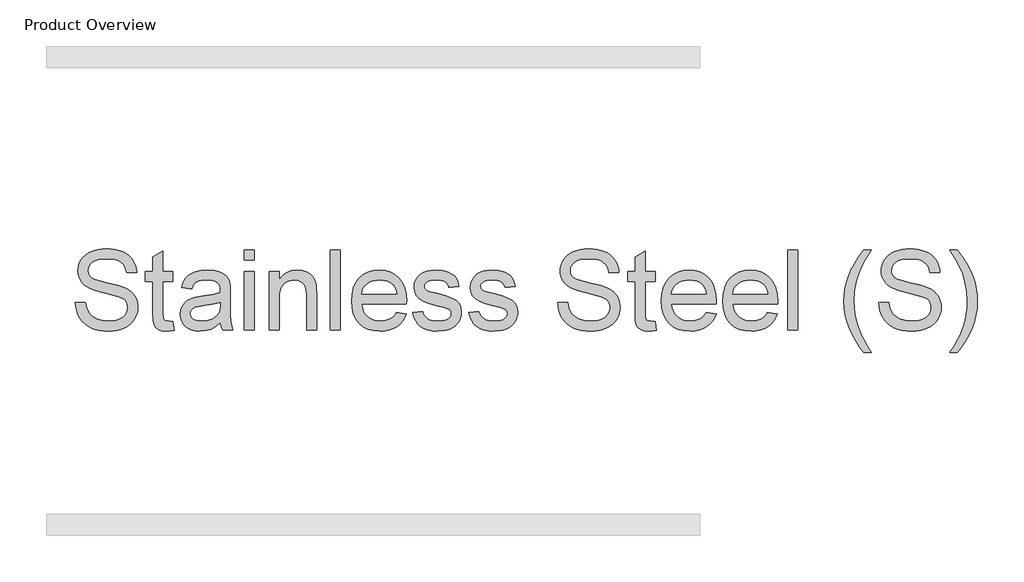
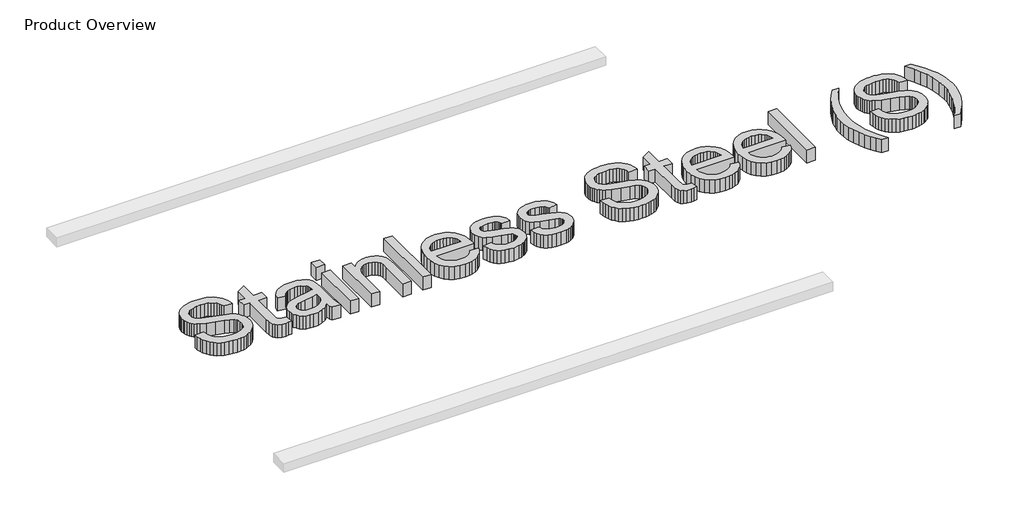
# One storey, part 3 of 12: 1 proxy.
"""IFC4 building model written with IfcOpenShell, lengths in millimetres."""

import ifcopenshell
import ifcopenshell.guid

model = None  # the IFC model being written
_history = None  # IfcOwnerHistory: only IFC2X3 demands one
_inside = {}  # id of a spatial element -> (the spatial element, [elements in it])
_under = {}  # id of a project, library or spatial element -> (it, [spatial elements below it])
_declared = {}  # id of a project -> (the project, [libraries it declares])
_typed = {}  # id of a type object -> (the type object, [elements of that type])
_made_of = {}  # id of a material, layer set ... -> (it, [elements and type objects made of it])


def new_model(schema):
    """Start an empty IFC model of exactly this schema.

    Asked for "IFC4X3", IfcOpenShell would pick the latest addendum, in which some entities
    have other attributes; the version numbers below select the first issue.
    IFC2X3 requires an IfcOwnerHistory on every rooted entity: one is made here for all.
    """
    global model, _history
    if schema == "IFC4X3":
        model = ifcopenshell.file(schema_version=(4, 3, 0, 0))
    else:
        model = ifcopenshell.file(schema=schema)
    _inside.clear()
    _under.clear()
    _declared.clear()
    _typed.clear()
    _made_of.clear()
    _history = None
    if model.schema == "IFC2X3":
        org = make("IfcOrganization", Name="unknown")
        user = make(
            "IfcPersonAndOrganization",
            ThePerson=make("IfcPerson", FamilyName="unknown"),
            TheOrganization=org,
        )
        app = make(
            "IfcApplication",
            ApplicationDeveloper=org,
            Version="unknown",
            ApplicationFullName="unknown",
            ApplicationIdentifier="unknown",
        )
        _history = make(
            "IfcOwnerHistory",
            OwningUser=user,
            OwningApplication=app,
            ChangeAction="ADDED",
            CreationDate=0,
        )
    return model


def make(cls, **values):
    """One entity of the class cls with the attributes given. An attribute that is None is left unset."""
    return model.create_entity(
        cls, **{name: value for name, value in values.items() if value is not None}
    )


def rooted(cls, **values):
    """An entity with a GlobalId (a new one), such as an element, a storey or a relation."""
    return make(cls, GlobalId=ifcopenshell.guid.new(), OwnerHistory=_history, **values)


def si_unit(unit_type, name, prefix=None):
    """IfcSIUnit, for example si_unit("LENGTHUNIT", "METRE", prefix="MILLI")."""
    return make("IfcSIUnit", UnitType=unit_type, Prefix=prefix, Name=name)


def assignment(units):
    """IfcUnitAssignment: the units of a project."""
    return None if units is None else make("IfcUnitAssignment", Units=units)


def point(xyz):
    """IfcCartesianPoint."""
    return None if xyz is None else make("IfcCartesianPoint", Coordinates=xyz)


def direction(xyz):
    """IfcDirection."""
    return None if xyz is None else make("IfcDirection", DirectionRatios=xyz)


def frame(location, z_axis=None, x_axis=None):
    """IfcAxis2Placement3D, a coordinate frame: its origin and axes. An axis left out is left unset."""
    return make(
        "IfcAxis2Placement3D",
        Location=point(location),
        Axis=direction(z_axis),
        RefDirection=direction(x_axis),
    )


def origin():
    """The frame at (0, 0, 0) with its axes left unset."""
    return frame((0.0, 0.0, 0.0))


def origin_with_axes():
    """The frame at (0, 0, 0) with the z axis (0, 0, 1) and the x axis (1, 0, 0) written out."""
    return frame((0.0, 0.0, 0.0), z_axis=(0.0, 0.0, 1.0), x_axis=(1.0, 0.0, 0.0))


def place(relative_to, where):
    """IfcLocalPlacement: puts the frame where relative to a parent placement (None: the world)."""
    return make(
        "IfcLocalPlacement", PlacementRelTo=relative_to, RelativePlacement=where
    )


def context(
    kind, dimensions, precision=None, world=None, true_north=None, identifier=None
):
    """IfcGeometricRepresentationContext, for example the 3D "Model" context."""
    return make(
        "IfcGeometricRepresentationContext",
        ContextIdentifier=identifier,
        ContextType=kind,
        CoordinateSpaceDimension=dimensions,
        Precision=precision,
        WorldCoordinateSystem=world,
        TrueNorth=true_north,
    )


def project(units=None, contexts=None):
    """IfcProject with its units and contexts."""
    return rooted(
        "IfcProject",
        Name="project",
        RepresentationContexts=contexts,
        UnitsInContext=assignment(units),
    )


def spatial(cls, under=None, at=None, **own):
    """A site, building, storey or space (cls), placed at a placement, below another one or the project."""
    s = rooted(cls, ObjectPlacement=at, **own)
    if under is not None:
        _under.setdefault(under.id(), (under, []))[1].append(s)
    return s


def polyline(points):
    """IfcPolyline through the points."""
    return make("IfcPolyline", Points=[point(p) for p in points])


def outline(outer, holes=None, kind="AREA"):
    """IfcArbitraryClosedProfileDef: a profile drawn as a closed curve; with holes, ...WithVoids."""
    if holes is None:
        return make("IfcArbitraryClosedProfileDef", ProfileType=kind, OuterCurve=outer)
    return make(
        "IfcArbitraryProfileDefWithVoids",
        ProfileType=kind,
        OuterCurve=outer,
        InnerCurves=holes,
    )


def extrude(swept, where, along, depth):
    """IfcExtrudedAreaSolid: the profile swept, set in the frame where, extruded along a direction by depth."""
    return make(
        "IfcExtrudedAreaSolid",
        SweptArea=swept,
        Position=where,
        ExtrudedDirection=direction(along),
        Depth=depth,
    )


def shape(context_of_items, identifier, shape_type, items):
    """IfcShapeRepresentation: the items that make up one representation, for example the "Body"."""
    return make(
        "IfcShapeRepresentation",
        ContextOfItems=context_of_items,
        RepresentationIdentifier=identifier,
        RepresentationType=shape_type,
        Items=items,
    )


def made_of(thing, what):
    """Note that an element or type object is made of a material, layer set ...; save() writes the relation."""
    if what is not None:
        _made_of.setdefault(what.id(), (what, []))[1].append(thing)
    return thing


def element(
    cls,
    number,
    at=None,
    inside=None,
    cuts=None,
    type_object=None,
    material=None,
    context=None,
    identifier="Body",
    shape_type=None,
    held_by="IfcProductDefinitionShape",
    body=None,
    shapes=None,
    **own,
):
    """One element of the class cls, such as IfcWall. Its Tag is "e" and its number.

    at: its placement. inside: the storey or other place that contains it. cuts: it is an
    opening in that element (IfcRelVoidsElement). A single representation is given by context,
    identifier, shape_type and body (its items); several are given by shapes. held_by: the class
    of the entity that holds the representations. save() writes the other relations.
    """
    e = rooted(cls, Tag="e%d" % number, ObjectPlacement=at, **own)
    if body is not None:
        shapes = [shape(context, identifier, shape_type, body)]
    if shapes is not None:
        e.Representation = make(held_by, Representations=shapes)
    if inside is not None:
        _inside.setdefault(inside.id(), (inside, []))[1].append(e)
    if cuts is not None:
        rooted(
            "IfcRelVoidsElement", RelatingBuildingElement=cuts, RelatedOpeningElement=e
        )
    if type_object is not None:
        _typed.setdefault(type_object.id(), (type_object, []))[1].append(e)
    return made_of(e, material)


def aggregate(whole, parts):
    """IfcRelAggregates: a whole, such as a stair, and the parts it consists of."""
    return rooted("IfcRelAggregates", RelatingObject=whole, RelatedObjects=parts)


def save(model, path):
    """Write the relations noted so far, then the file.

    IfcRelAggregates (storeys below a building ...), IfcRelContainedInSpatialStructure (elements
    in a storey), IfcRelDefinesByType, IfcRelAssociatesMaterial and IfcRelDeclares: one each for
    every whole, place, type object, material and project.
    """
    for whole, parts in _under.values():
        aggregate(whole, parts)
    for where, things in _inside.values():
        rooted(
            "IfcRelContainedInSpatialStructure",
            RelatedElements=things,
            RelatingStructure=where,
        )
    for kind, things in _typed.values():
        rooted("IfcRelDefinesByType", RelatedObjects=things, RelatingType=kind)
    for what, things in _made_of.values():
        rooted("IfcRelAssociatesMaterial", RelatedObjects=things, RelatingMaterial=what)
    for by, libraries in _declared.values():
        rooted("IfcRelDeclares", RelatingContext=by, RelatedDefinitions=libraries)
    model.write(path)


model = new_model("IFC4")

# Units and contexts
model_context = context("Model", 3, world=origin())
ifc_project = project(units=[si_unit("LENGTHUNIT", "METRE", prefix="MILLI")], contexts=[model_context])

# Site, building, storey
site = spatial("IfcSite", under=ifc_project)
building = spatial("IfcBuilding", under=site)
storey = spatial("IfcBuildingStorey", under=building, Name="Product Overview", Elevation=0.0)

# Proxy
placement = place(None, origin())
element("IfcBuildingElementProxy", 1, Name="750mm", ObjectType="750mm", at=placement, inside=storey, context=model_context, shape_type="SweptSolid", body=[
    extrude(outline(polyline([(-16230.7611587, -17101.3362158), (-16138.9429769, -17101.3362158), (-16128.4071992, -17152.2890301), (-16109.3531331, -17193.2440638), (-16096.0937448, -17210.3590985), (-16079.6287901, -17225.7480589), (-16037.0821814, -17251.347757), (-15985.0757894, -17267.9584193), (-15926.9720962, -17273.4953067), (-15875.817533, -17269.3034122), (-15831.0292695, -17256.7277286), (-15794.7368778, -17236.8218337), (-15769.06993, -17210.6393053), (-15753.8042606, -17180.5787141), (-15748.7157041, -17149.0386306), (-15752.5265173, -17118.3055429), (-15763.958957, -17091.7419332), (-15773.5756562, -17079.9564329), (-15787.182501, -17069.0788028), (-15826.3666274, -17050.0471533), (-15874.8536214, -17035.6333128), (-15960.0589215, -17014.9876718), (-16047.819708, -16991.7865443), (-16103.9731615, -16969.7062442), (-16128.4912612, -16955.0794465), (-16149.6805035, -16938.8162407), (-16167.5408883, -16920.9166269), (-16182.0724158, -16901.380605), (-16193.3311272, -16880.4099241), (-16201.3730639, -16858.206333), (-16206.1982259, -16834.7698318), (-16207.8066132, -16810.1004204), (-16205.8171446, -16782.7578356), (-16199.8487386, -16756.323121), (-16189.9013953, -16730.7962766), (-16175.9751146, -16706.1773025), (-16158.2268125, -16683.4693391), (-16136.8134048, -16663.6755269), (-16111.7348914, -16646.795866), (-16082.9912723, -16632.8303565), (-16051.5520633, -16621.8854767), (-16018.3867801, -16614.0677055), (-15983.4954227, -16609.3770428), (-15946.8779911, -16607.8134886), (-15906.931702, -16609.4498966), (-15869.4064001, -16614.3591207), (-15834.3020855, -16622.5411608), (-15801.6187581, -16633.996017), (-15771.9616647, -16648.6228147), (-15745.9360521, -16666.3206796), (-15723.5419204, -16687.0896116), (-15704.7792695, -16710.9296107), (-15689.7938069, -16737.1457639), (-15678.7312403, -16765.0431583), (-15671.5915697, -16794.6217938), (-15668.374795, -16825.8816704), (-15760.1929769, -16825.8816704), (-15766.3351111, -16796.5832417), (-15777.0502212, -16771.0956263), (-15792.3383071, -16749.4188241), (-15812.1993689, -16731.5528351), (-15837.0032796, -16717.5873256), (-15867.1199122, -16707.6119616), (-15902.5492668, -16701.6267432), (-15943.2913433, -16699.6316704), (-15985.3335797, -16701.6043266), (-16021.2560983, -16707.5222954), (-16051.0588993, -16717.3855766), (-16074.7419825, -16731.1941704), (-16092.7873039, -16747.7936244), (-16105.6768192, -16766.0294864), (-16113.4105283, -16785.9017565), (-16115.9884314, -16807.4104346), (-16114.1614827, -16825.9152952), (-16108.6806367, -16842.6940816), (-16099.5458932, -16857.7467938), (-16086.7572524, -16871.0734317), (-16066.6271921, -16883.6939484), (-16034.9301928, -16896.4489644), (-15936.8353774, -16922.3624942), (-15835.6022453, -16946.9758643), (-15774.3602354, -16968.4509175), (-15746.2106549, -16984.1312931), (-15722.0175951, -17001.7619083), (-15701.7810561, -17021.3427632), (-15685.5010379, -17042.8738579), (-15672.9869998, -17066.2431095), (-15664.0484012, -17091.3384353), (-15658.685242, -17118.1598353), (-15656.8975223, -17146.7073096), (-15658.9542406, -17175.4285121), (-15665.1243955, -17203.309094), (-15675.4079871, -17230.3490554), (-15689.8050152, -17256.5483962), (-15708.0632938, -17280.8927677), (-15729.9306367, -17302.3678209), (-15755.4070438, -17320.973556), (-15784.4925152, -17336.7099729), (-15816.3408262, -17349.224011), (-15850.1057521, -17358.1626096), (-15885.7872928, -17363.5257688), (-15923.3854484, -17365.3134886), (-15970.3537213, -17363.3856654), (-16013.3430568, -17357.6021959), (-16052.3534549, -17347.9630802), (-16087.3849158, -17334.4683181), (-16118.6503965, -17317.0954932), (-16146.3628543, -17295.8221888), (-16170.5222893, -17270.6484051), (-16191.1287013, -17241.574142), (-16207.7281553, -17209.5408944), (-16219.8667162, -17175.4901576), (-16227.544384, -17139.4219314), (-16230.7611587, -17101.3362158)])), origin_with_axes(), (0.0, 0.0, 1.0), 150.0),
    extrude(outline(polyline([(-15335.5338859, -17277.2612868), (-15324.0566132, -17356.5262016), (-15360.4162546, -17363.1166668), (-15392.7409172, -17365.3134886), (-15436.8118511, -17361.5026753), (-15469.6745109, -17350.0702357), (-15492.898055, -17332.4508288), (-15508.0516416, -17310.0791136), (-15516.3905976, -17271.6571498), (-15519.1702496, -17205.8869971), (-15519.1702496, -16906.2225795), (-15588.0338859, -16906.2225795), (-15588.0338859, -16814.4043976), (-15519.1702496, -16814.4043976), (-15519.1702496, -16683.3124232), (-15427.3520678, -16629.3333749), (-15427.3520678, -16814.4043976), (-15335.5338859, -16814.4043976), (-15335.5338859, -16906.2225795), (-15427.3520678, -16906.2225795), (-15427.3520678, -17203.1970113), (-15426.1415742, -17233.4145184), (-15422.5100933, -17250.5407613), (-15416.1662102, -17260.0229612), (-15406.8185095, -17267.3083394), (-15393.5703295, -17271.9485649), (-15375.5250081, -17273.4953067), (-15335.5338859, -17277.2612868)])), origin_with_axes(), (0.0, 0.0, 1.0), 150.0),
    extrude(outline(polyline([(-14899.3975223, -17284.9725795), (-14943.2667073, -17322.5875475), (-14988.4360521, -17347.2009175), (-15035.936718, -17360.7853458), (-15086.7998661, -17365.3134886), (-15127.682046, -17362.5898779), (-15163.5317109, -17354.4190461), (-15194.3488606, -17340.800993), (-15220.1334953, -17321.7357187), (-15240.4933253, -17298.4337167), (-15255.036061, -17272.1054807), (-15263.7617024, -17242.7510107), (-15266.6702496, -17210.3703067), (-15262.2766061, -17172.3070077), (-15249.0956757, -17137.7406903), (-15228.7638664, -17108.1508465), (-15202.9175862, -17085.0169687), (-15172.5431633, -17067.532061), (-15138.6269257, -17054.8891278), (-15059.1826786, -17041.080534), (-14965.3021743, -17026.5546107), (-14899.9355195, -17009.518034), (-14899.3975223, -16989.074142), (-14900.977889, -16966.8145095), (-14905.7189889, -16948.0966917), (-14913.6208222, -16932.9206885), (-14924.6833888, -16921.2864999), (-14943.8047045, -16909.6747279), (-14967.0954982, -16901.380605), (-14994.5557698, -16896.4041313), (-15026.1855195, -16894.7453067), (-15080.8818973, -16899.1613667), (-15102.0431189, -16904.6814418), (-15119.0796956, -16912.4095468), (-15133.07883, -16922.9509286), (-15145.1277247, -16936.9108341), (-15155.2263797, -16954.2892631), (-15163.374795, -16975.0862158), (-15255.1929769, -16963.6089431), (-15239.254811, -16913.3958749), (-15215.4708533, -16873.9427499), (-15200.0818929, -16857.8812931), (-15181.6218653, -16843.7700759), (-15135.488609, -16821.3983607), (-15079.0661569, -16807.5449339), (-15014.349582, -16802.9271249), (-14952.2781597, -16807.0069367), (-14903.0738362, -16819.2463721), (-14865.9744488, -16837.6503582), (-14840.2178348, -16860.2238224), (-14823.136425, -16888.132425), (-14812.0626501, -16922.5418266), (-14808.7001679, -16954.283659), (-14807.5793405, -17002.8827357), (-14807.5793405, -17117.1174658), (-14806.41368, -17216.6245237), (-14802.9166984, -17276.6336235), (-14796.0124016, -17316.0643319), (-14784.624795, -17353.8362158), (-14876.4429769, -17353.8362158), (-14891.1482325, -17321.9150511), (-14899.3975223, -17284.9725795)]), holes=[polyline([(-14899.3975223, -17101.3362158), (-14961.0878632, -17116.6243018), (-15047.5260734, -17129.4914005), (-15095.1612386, -17136.5301966), (-15126.5219896, -17144.3759886), (-15147.0779644, -17154.5531015), (-15162.2988007, -17168.5858607), (-15171.713751, -17185.3982719), (-15174.8520678, -17203.9143408), (-15173.142806, -17218.1824738), (-15168.0150205, -17231.2176966), (-15159.4687115, -17243.0200093), (-15147.5038788, -17253.5894118), (-15132.2326053, -17262.2982409), (-15113.7669737, -17268.518833), (-15067.2526359, -17273.4953067), (-15017.9362297, -17268.0032524), (-14974.3584598, -17251.5270894), (-14939.0299797, -17227.2499676), (-14914.4614428, -17198.3550368), (-14903.5670003, -17168.5858607), (-14899.9355195, -17127.3394118), (-14899.3975223, -17101.3362158)])]), origin_with_axes(), (0.0, 0.0, 1.0), 150.0),
    extrude(outline(polyline([(-14681.3293405, -17353.8362158), (-14681.3293405, -16814.4043976), (-14589.5111587, -16814.4043976), (-14589.5111587, -17353.8362158), (-14681.3293405, -17353.8362158)])), origin_with_axes(), (0.0, 0.0, 1.0), 150.0),
    extrude(outline(polyline([(-14681.3293405, -16711.1089431), (-14681.3293405, -16619.2907613), (-14589.5111587, -16619.2907613), (-14589.5111587, -16711.1089431), (-14681.3293405, -16711.1089431)])), origin_with_axes(), (0.0, 0.0, 1.0), 150.0),
    extrude(outline(polyline([(-14451.7838859, -17353.8362158), (-14451.7838859, -16814.4043976), (-14359.9657041, -16814.4043976), (-14359.9657041, -16889.7239999), (-14328.0669559, -16851.7503671), (-14289.7570749, -16824.6263437), (-14245.036061, -16808.3519296), (-14193.9039144, -16802.9271249), (-14148.6449033, -16807.2983518), (-14107.1967055, -16820.4120326), (-14072.6303881, -16840.6317591), (-14048.017018, -16866.3211235), (-14031.3166896, -16897.412876), (-14020.4894967, -16933.839767), (-14016.8580159, -16968.675083), (-14015.6475223, -17022.6092982), (-14015.6475223, -17353.8362158), (-14107.4657041, -17353.8362158), (-14107.4657041, -17034.9832329), (-14110.1108568, -16987.5049836), (-14118.0463149, -16953.7456618), (-14132.684321, -16929.5582062), (-14155.4371175, -16910.7955553), (-14184.6010468, -16898.7578689), (-14218.4724513, -16894.7453067), (-14246.3530332, -16896.9981698), (-14272.2497506, -16903.7567591), (-14296.1626035, -16915.0210747), (-14318.0915919, -16930.7911164), (-14336.411516, -16952.8602082), (-14349.4971761, -16983.0216739), (-14357.3485721, -17021.2755136), (-14359.9657041, -17067.6217272), (-14359.9657041, -17353.8362158), (-14451.7838859, -17353.8362158)])), origin_with_axes(), (0.0, 0.0, 1.0), 150.0),
    extrude(outline(polyline([(-13889.3975223, -17353.8362158), (-13889.3975223, -16619.2907613), (-13797.5793405, -16619.2907613), (-13797.5793405, -17353.8362158), (-13889.3975223, -17353.8362158)])), origin_with_axes(), (0.0, 0.0, 1.0), 150.0),
    extrude(outline(polyline([(-13282.1780621, -17193.1543976), (-13192.1532041, -17204.6316704), (-13205.9561937, -17240.6886883), (-13224.5899495, -17272.4641455), (-13248.0544714, -17299.958042), (-13276.3497595, -17323.1703778), (-13309.1843986, -17341.6079887), (-13346.2669737, -17354.7777109), (-13387.5974846, -17362.6795441), (-13433.1759314, -17365.3134886), (-13490.1475889, -17360.7685334), (-13540.9098625, -17347.1336679), (-13585.4627522, -17324.4088921), (-13623.8062581, -17292.5942059), (-13654.6402203, -17252.575063), (-13676.664479, -17205.2369172), (-13689.8790342, -17150.5797683), (-13694.2838859, -17088.6036164), (-13689.8342011, -17024.5259131), (-13676.4851466, -16968.0474197), (-13654.2367224, -16919.1681361), (-13623.0889286, -16877.8880624), (-13584.8462972, -16845.0926523), (-13541.3133604, -16821.6673593), (-13492.4901182, -16807.6121835), (-13438.3765706, -16802.9271249), (-13386.0059096, -16807.6009752), (-13338.6453472, -16821.6225262), (-13296.2948834, -16844.9917778), (-13258.954518, -16877.70873), (-13228.4736165, -16918.8991375), (-13206.701544, -16967.6887549), (-13193.6383004, -17024.0775821), (-13189.2838859, -17088.0656192), (-13189.8218831, -17112.8134886), (-13602.4657041, -17112.8134886), (-13597.147378, -17149.4533367), (-13586.5723714, -17181.5426256), (-13570.7406841, -17209.0813552), (-13549.6523163, -17232.0695255), (-13524.4729285, -17250.1933048), (-13496.368181, -17263.1388614), (-13465.3380741, -17270.9061954), (-13431.3826075, -17273.4953067), (-13382.5145322, -17268.6981654), (-13341.3577496, -17254.3067414), (-13323.671093, -17243.2890079), (-13307.9122595, -17229.4243728), (-13294.0812492, -17212.712836), (-13282.1780621, -17193.1543976)]), holes=[polyline([(-13602.4657041, -17020.9953067), (-13281.1020678, -17020.9953067), (-13285.8207512, -16995.0145273), (-13293.5208355, -16972.4858962), (-13304.2023208, -16953.4094136), (-13317.865207, -16937.7850795), (-13342.9044914, -16918.9551789), (-13371.3959243, -16905.5052499), (-13403.3395056, -16897.4352925), (-13438.7352354, -16894.7453067), (-13471.0206691, -16896.8916912), (-13500.6273252, -16903.3308447), (-13527.5552039, -16914.0627672), (-13551.804305, -16929.0874587), (-13572.1529267, -16947.7100062), (-13587.3793671, -16969.2354967), (-13597.4836263, -16993.6639302), (-13602.4657041, -17020.9953067)])]), origin_with_axes(), (0.0, 0.0, 1.0), 150.0),
    extrude(outline(polyline([(-13131.8975223, -17193.1543976), (-13040.0793405, -17181.6771249), (-13034.5312448, -17202.614181), (-13025.5982503, -17220.9509175), (-13013.280357, -17236.6873344), (-12997.5775649, -17249.8234317), (-12978.4450409, -17260.179877), (-12955.837952, -17267.577338), (-12929.7562981, -17272.0158145), (-12900.2000791, -17273.4953067), (-12845.2347027, -17268.070502), (-12823.8717322, -17261.2894962), (-12806.5885734, -17251.796088), (-12793.2507272, -17240.4757311), (-12783.7236942, -17228.2138792), (-12778.0074744, -17215.0105322), (-12776.1020678, -17200.8656903), (-12778.0186826, -17188.4693391), (-12783.7685273, -17177.4628138), (-12793.3516017, -17167.8461146), (-12806.7679058, -17159.6192414), (-12841.1548909, -17147.9626363), (-12901.2760734, -17133.436713), (-12985.069131, -17109.2044243), (-13039.5413433, -17088.5139502), (-13074.5335752, -17065.9404861), (-13099.8866913, -17036.0592272), (-13115.28686, -17000.7755802), (-13120.4202496, -16961.9949516), (-13116.2956047, -16926.4198895), (-13103.92167, -16893.5796462), (-13084.419273, -16864.7743817), (-13058.9092411, -16841.3042556), (-13033.5561249, -16826.5317503), (-13000.5365493, -16814.1353991), (-12962.3611675, -16805.7291935), (-12921.5406331, -16802.9271249), (-12861.7781153, -16807.4328511), (-12809.8165564, -16820.9500297), (-12768.0321104, -16842.1560844), (-12751.8473625, -16855.1464742), (-12738.8009314, -16869.7284388), (-12719.4330337, -16905.7069989), (-12707.2384314, -16952.1316704), (-12799.0566132, -16963.6089431), (-12803.4334443, -16948.2704199), (-12810.6459687, -16934.7140123), (-12820.6941865, -16922.9397204), (-12833.5780976, -16912.947544), (-12849.3537435, -16904.9840652), (-12868.0771654, -16899.295866), (-12914.3673376, -16894.7453067), (-12967.0910592, -16899.0941171), (-12986.8624548, -16904.5301301), (-13002.240207, -16912.1405482), (-13022.0116026, -16930.9704488), (-13026.9544515, -16941.4613934), (-13028.6020678, -16952.6696675), (-13025.8672489, -16966.792093), (-13017.6627922, -16979.3901931), (-13003.630033, -16990.6433003), (-12983.4103064, -16999.6547528), (-12904.324724, -17019.2019829), (-12823.1992357, -17043.1876895), (-12769.5564357, -17062.421088), (-12733.958957, -17083.0891455), (-12706.9694328, -17111.3788295), (-12697.0445061, -17128.4041979), (-12689.9552727, -17147.379806), (-12684.2838859, -17191.1817414), (-12685.9483147, -17214.1587034), (-12690.9416008, -17236.463169), (-12699.2637443, -17258.0951381), (-12710.9147453, -17279.0546107), (-12725.7040631, -17298.5065705), (-12743.4411569, -17315.616001), (-12764.1260268, -17330.3829022), (-12787.7586729, -17342.8072741), (-12813.6946193, -17352.6537429), (-12841.2893902, -17359.6869349), (-12901.4554058, -17365.3134886), (-12950.8726865, -17362.6010862), (-12994.0357503, -17354.4638792), (-13030.9445971, -17340.9018675), (-13061.5992269, -17321.9150511), (-13086.6385113, -17297.5930962), (-13106.701322, -17268.025669), (-13121.787659, -17233.2127694), (-13131.8975223, -17193.1543976)])), origin_with_axes(), (0.0, 0.0, 1.0), 150.0),
    extrude(outline(polyline([(-12615.4202496, -17193.1543976), (-12523.6020678, -17181.6771249), (-12518.0539721, -17202.614181), (-12509.1209776, -17220.9509175), (-12496.8030843, -17236.6873344), (-12481.1002922, -17249.8234317), (-12461.9677682, -17260.179877), (-12439.3606793, -17267.577338), (-12413.2790253, -17272.0158145), (-12383.7228064, -17273.4953067), (-12328.75743, -17268.070502), (-12307.3944595, -17261.2894962), (-12290.1113007, -17251.796088), (-12276.7734545, -17240.4757311), (-12267.2464215, -17228.2138792), (-12261.5302016, -17215.0105322), (-12259.624795, -17200.8656903), (-12261.5414099, -17188.4693391), (-12267.2912546, -17177.4628138), (-12276.8743289, -17167.8461146), (-12290.2906331, -17159.6192414), (-12324.6776182, -17147.9626363), (-12384.7988007, -17133.436713), (-12468.5918582, -17109.2044243), (-12523.0640706, -17088.5139502), (-12558.0563025, -17065.9404861), (-12583.4094186, -17036.0592272), (-12598.8095873, -17000.7755802), (-12603.9429769, -16961.9949516), (-12599.818332, -16926.4198895), (-12587.4443973, -16893.5796462), (-12567.9420003, -16864.7743817), (-12542.4319683, -16841.3042556), (-12517.0788522, -16826.5317503), (-12484.0592766, -16814.1353991), (-12445.8838948, -16805.7291935), (-12405.0633604, -16802.9271249), (-12345.3008426, -16807.4328511), (-12293.3392837, -16820.9500297), (-12251.5548376, -16842.1560844), (-12235.3700898, -16855.1464742), (-12222.3236587, -16869.7284388), (-12202.9557609, -16905.7069989), (-12190.7611587, -16952.1316704), (-12282.5793405, -16963.6089431), (-12286.9561715, -16948.2704199), (-12294.168696, -16934.7140123), (-12304.2169137, -16922.9397204), (-12317.1008249, -16912.947544), (-12332.8764707, -16904.9840652), (-12351.5998927, -16899.295866), (-12397.8900649, -16894.7453067), (-12450.6137865, -16899.0941171), (-12470.3851821, -16904.5301301), (-12485.7629342, -16912.1405482), (-12505.5343298, -16930.9704488), (-12510.4771787, -16941.4613934), (-12512.124795, -16952.6696675), (-12509.3899761, -16966.792093), (-12501.1855195, -16979.3901931), (-12487.1527602, -16990.6433003), (-12466.9330337, -16999.6547528), (-12387.8474513, -17019.2019829), (-12306.721963, -17043.1876895), (-12253.0791629, -17062.421088), (-12217.4816842, -17083.0891455), (-12190.4921601, -17111.3788295), (-12180.5672333, -17128.4041979), (-12173.4779999, -17147.379806), (-12167.8066132, -17191.1817414), (-12169.4710419, -17214.1587034), (-12174.4643281, -17236.463169), (-12182.7864716, -17258.0951381), (-12194.4374726, -17279.0546107), (-12209.2267903, -17298.5065705), (-12226.9638842, -17315.616001), (-12247.6487541, -17330.3829022), (-12271.2814001, -17342.8072741), (-12297.2173465, -17352.6537429), (-12324.8121175, -17359.6869349), (-12384.9781331, -17365.3134886), (-12434.3954138, -17362.6010862), (-12477.5584776, -17354.4638792), (-12514.4673243, -17340.9018675), (-12545.1219541, -17321.9150511), (-12570.1612386, -17297.5930962), (-12590.2240493, -17268.025669), (-12605.3103863, -17233.2127694), (-12615.4202496, -17193.1543976)])), origin_with_axes(), (0.0, 0.0, 1.0), 150.0),
    extrude(outline(polyline([(-11800.5338859, -17101.3362158), (-11708.7157041, -17101.3362158), (-11698.1799264, -17152.2890301), (-11679.1258604, -17193.2440638), (-11665.8664721, -17210.3590985), (-11649.4015173, -17225.7480589), (-11606.8549087, -17251.347757), (-11554.8485166, -17267.9584193), (-11496.7448234, -17273.4953067), (-11445.5902602, -17269.3034122), (-11400.8019967, -17256.7277286), (-11364.509605, -17236.8218337), (-11338.8426572, -17210.6393053), (-11323.5769879, -17180.5787141), (-11318.4884314, -17149.0386306), (-11322.2992446, -17118.3055429), (-11333.7316842, -17091.7419332), (-11343.3483835, -17079.9564329), (-11356.9552283, -17069.0788028), (-11396.1393547, -17050.0471533), (-11444.6263487, -17035.6333128), (-11529.8316487, -17014.9876718), (-11617.5924353, -16991.7865443), (-11673.7458888, -16969.7062442), (-11698.2639885, -16955.0794465), (-11719.4532308, -16938.8162407), (-11737.3136156, -16920.9166269), (-11751.845143, -16901.380605), (-11763.1038544, -16880.4099241), (-11771.1457911, -16858.206333), (-11775.9709531, -16834.7698318), (-11777.5793405, -16810.1004204), (-11775.5898718, -16782.7578356), (-11769.6214658, -16756.323121), (-11759.6741225, -16730.7962766), (-11745.7478419, -16706.1773025), (-11727.9995398, -16683.4693391), (-11706.586132, -16663.6755269), (-11681.5076186, -16646.795866), (-11652.7639996, -16632.8303565), (-11621.3247906, -16621.8854767), (-11588.1595074, -16614.0677055), (-11553.26815, -16609.3770428), (-11516.6507183, -16607.8134886), (-11476.7044293, -16609.4498966), (-11439.1791274, -16614.3591207), (-11404.0748128, -16622.5411608), (-11371.3914854, -16633.996017), (-11341.734392, -16648.6228147), (-11315.7087794, -16666.3206796), (-11293.3146477, -16687.0896116), (-11274.5519967, -16710.9296107), (-11259.5665342, -16737.1457639), (-11248.5039676, -16765.0431583), (-11241.364297, -16794.6217938), (-11238.1475223, -16825.8816704), (-11329.9657041, -16825.8816704), (-11336.1078384, -16796.5832417), (-11346.8229484, -16771.0956263), (-11362.1110344, -16749.4188241), (-11381.9720962, -16731.5528351), (-11406.7760069, -16717.5873256), (-11436.8926395, -16707.6119616), (-11472.3219941, -16701.6267432), (-11513.0640706, -16699.6316704), (-11555.1063069, -16701.6043266), (-11591.0288256, -16707.5222954), (-11620.8316265, -16717.3855766), (-11644.5147098, -16731.1941704), (-11662.5600312, -16747.7936244), (-11675.4495465, -16766.0294864), (-11683.1832556, -16785.9017565), (-11685.7611587, -16807.4104346), (-11683.93421, -16825.9152952), (-11678.4533639, -16842.6940816), (-11669.3186205, -16857.7467938), (-11656.5299797, -16871.0734317), (-11636.3999193, -16883.6939484), (-11604.70292, -16896.4489644), (-11506.6081047, -16922.3624942), (-11405.3749726, -16946.9758643), (-11344.1329626, -16968.4509175), (-11315.9833821, -16984.1312931), (-11291.7903224, -17001.7619083), (-11271.5537834, -17021.3427632), (-11255.2737652, -17042.8738579), (-11242.7597271, -17066.2431095), (-11233.8211285, -17091.3384353), (-11228.4579693, -17118.1598353), (-11226.6702496, -17146.7073096), (-11228.7269679, -17175.4285121), (-11234.8971228, -17203.309094), (-11245.1807143, -17230.3490554), (-11259.5777425, -17256.5483962), (-11277.8360211, -17280.8927677), (-11299.7033639, -17302.3678209), (-11325.1797711, -17320.973556), (-11354.2652425, -17336.7099729), (-11386.1135535, -17349.224011), (-11419.8784793, -17358.1626096), (-11455.5600201, -17363.5257688), (-11493.1581757, -17365.3134886), (-11540.1264485, -17363.3856654), (-11583.115784, -17357.6021959), (-11622.1261822, -17347.9630802), (-11657.157643, -17334.4683181), (-11688.4231238, -17317.0954932), (-11716.1355816, -17295.8221888), (-11740.2950165, -17270.6484051), (-11760.9014286, -17241.574142), (-11777.5008826, -17209.5408944), (-11789.6394435, -17175.4901576), (-11797.3171113, -17139.4219314), (-11800.5338859, -17101.3362158)])), origin_with_axes(), (0.0, 0.0, 1.0), 150.0),
    extrude(outline(polyline([(-10905.3066132, -17277.2612868), (-10893.8293405, -17356.5262016), (-10930.1889818, -17363.1166668), (-10962.5136445, -17365.3134886), (-11006.5845784, -17361.5026753), (-11039.4472382, -17350.0702357), (-11062.6707822, -17332.4508288), (-11077.8243689, -17310.0791136), (-11086.1633249, -17271.6571498), (-11088.9429769, -17205.8869971), (-11088.9429769, -16906.2225795), (-11157.8066132, -16906.2225795), (-11157.8066132, -16814.4043976), (-11088.9429769, -16814.4043976), (-11088.9429769, -16683.3124232), (-10997.124795, -16629.3333749), (-10997.124795, -16814.4043976), (-10905.3066132, -16814.4043976), (-10905.3066132, -16906.2225795), (-10997.124795, -16906.2225795), (-10997.124795, -17203.1970113), (-10995.9143014, -17233.4145184), (-10992.2828206, -17250.5407613), (-10985.9389374, -17260.0229612), (-10976.5912368, -17267.3083394), (-10963.3430568, -17271.9485649), (-10945.2977354, -17273.4953067), (-10905.3066132, -17277.2612868)])), origin_with_axes(), (0.0, 0.0, 1.0), 150.0),
    extrude(outline(polyline([(-10435.8144257, -17193.1543976), (-10345.7895678, -17204.6316704), (-10359.5925574, -17240.6886883), (-10378.2263131, -17272.4641455), (-10401.6908351, -17299.958042), (-10429.9861232, -17323.1703778), (-10462.8207623, -17341.6079887), (-10499.9033373, -17354.7777109), (-10541.2338482, -17362.6795441), (-10586.812295, -17365.3134886), (-10643.7839525, -17360.7685334), (-10694.5462261, -17347.1336679), (-10739.0991159, -17324.4088921), (-10777.4426217, -17292.5942059), (-10808.2765839, -17252.575063), (-10830.3008426, -17205.2369172), (-10843.5153978, -17150.5797683), (-10847.9202496, -17088.6036164), (-10843.4705647, -17024.5259131), (-10830.1215102, -16968.0474197), (-10807.873086, -16919.1681361), (-10776.7252922, -16877.8880624), (-10738.4826608, -16845.0926523), (-10694.949724, -16821.6673593), (-10646.1264818, -16807.6121835), (-10592.0129342, -16802.9271249), (-10539.6422733, -16807.6009752), (-10492.2817109, -16821.6225262), (-10449.931247, -16844.9917778), (-10412.5908817, -16877.70873), (-10382.1099801, -16918.8991375), (-10360.3379076, -16967.6887549), (-10347.2746641, -17024.0775821), (-10342.9202496, -17088.0656192), (-10343.4582467, -17112.8134886), (-10756.1020678, -17112.8134886), (-10750.7837417, -17149.4533367), (-10740.208735, -17181.5426256), (-10724.3770478, -17209.0813552), (-10703.28868, -17232.0695255), (-10678.1092921, -17250.1933048), (-10650.0045447, -17263.1388614), (-10618.9744377, -17270.9061954), (-10585.0189712, -17273.4953067), (-10536.1508959, -17268.6981654), (-10494.9941132, -17254.3067414), (-10477.3074566, -17243.2890079), (-10461.5486232, -17229.4243728), (-10447.7176129, -17212.712836), (-10435.8144257, -17193.1543976)]), holes=[polyline([(-10756.1020678, -17020.9953067), (-10434.7384314, -17020.9953067), (-10439.4571148, -16995.0145273), (-10447.1571992, -16972.4858962), (-10457.8386844, -16953.4094136), (-10471.5015706, -16937.7850795), (-10496.540855, -16918.9551789), (-10525.0322879, -16905.5052499), (-10556.9758693, -16897.4352925), (-10592.371599, -16894.7453067), (-10624.6570327, -16896.8916912), (-10654.2636889, -16903.3308447), (-10681.1915675, -16914.0627672), (-10705.4406686, -16929.0874587), (-10725.7892903, -16947.7100062), (-10741.0157308, -16969.2354967), (-10751.1199899, -16993.6639302), (-10756.1020678, -17020.9953067)])]), origin_with_axes(), (0.0, 0.0, 1.0), 150.0),
    extrude(outline(polyline([(-9873.4280621, -17193.1543976), (-9783.4032041, -17204.6316704), (-9797.2061937, -17240.6886883), (-9815.8399495, -17272.4641455), (-9839.3044714, -17299.958042), (-9867.5997595, -17323.1703778), (-9900.4343986, -17341.6079887), (-9937.5169737, -17354.7777109), (-9978.8474846, -17362.6795441), (-10024.4259314, -17365.3134886), (-10081.3975889, -17360.7685334), (-10132.1598625, -17347.1336679), (-10176.7127522, -17324.4088921), (-10215.0562581, -17292.5942059), (-10245.8902203, -17252.575063), (-10267.914479, -17205.2369172), (-10281.1290342, -17150.5797683), (-10285.5338859, -17088.6036164), (-10281.0842011, -17024.5259131), (-10267.7351466, -16968.0474197), (-10245.4867224, -16919.1681361), (-10214.3389286, -16877.8880624), (-10176.0962972, -16845.0926523), (-10132.5633604, -16821.6673593), (-10083.7401182, -16807.6121835), (-10029.6265706, -16802.9271249), (-9977.2559096, -16807.6009752), (-9929.8953472, -16821.6225262), (-9887.5448834, -16844.9917778), (-9850.204518, -16877.70873), (-9819.7236165, -16918.8991375), (-9797.951544, -16967.6887549), (-9784.8883004, -17024.0775821), (-9780.5338859, -17088.0656192), (-9781.0718831, -17112.8134886), (-10193.7157041, -17112.8134886), (-10188.397378, -17149.4533367), (-10177.8223714, -17181.5426256), (-10161.9906841, -17209.0813552), (-10140.9023163, -17232.0695255), (-10115.7229285, -17250.1933048), (-10087.618181, -17263.1388614), (-10056.5880741, -17270.9061954), (-10022.6326075, -17273.4953067), (-9973.7645322, -17268.6981654), (-9932.6077496, -17254.3067414), (-9914.921093, -17243.2890079), (-9899.1622595, -17229.4243728), (-9885.3312492, -17212.712836), (-9873.4280621, -17193.1543976)]), holes=[polyline([(-10193.7157041, -17020.9953067), (-9872.3520678, -17020.9953067), (-9877.0707512, -16995.0145273), (-9884.7708355, -16972.4858962), (-9895.4523208, -16953.4094136), (-9909.115207, -16937.7850795), (-9934.1544914, -16918.9551789), (-9962.6459243, -16905.5052499), (-9994.5895056, -16897.4352925), (-10029.9852354, -16894.7453067), (-10062.2706691, -16896.8916912), (-10091.8773252, -16903.3308447), (-10118.8052039, -16914.0627672), (-10143.054305, -16929.0874587), (-10163.4029267, -16947.7100062), (-10178.6293671, -16969.2354967), (-10188.7336263, -16993.6639302), (-10193.7157041, -17020.9953067)])]), origin_with_axes(), (0.0, 0.0, 1.0), 150.0),
    extrude(outline(polyline([(-9688.7157041, -17353.8362158), (-9688.7157041, -16619.2907613), (-9596.8975223, -16619.2907613), (-9596.8975223, -17353.8362158), (-9688.7157041, -17353.8362158)])), origin_with_axes(), (0.0, 0.0, 1.0), 150.0),
    extrude(outline(polyline([(-8988.6020678, -17560.4271249), (-9025.6678304, -17512.4669198), (-9059.7521921, -17460.5838188), (-9090.8551528, -17404.7778218), (-9118.9767126, -17345.0489289), (-9142.2787146, -17282.7981743), (-9158.9230017, -17219.4265922), (-9168.909574, -17154.9341828), (-9172.2384314, -17089.3209459), (-9169.7501945, -17031.6543754), (-9162.285484, -16975.2207151), (-9149.8442997, -16920.0199649), (-9132.4266416, -16866.0521249), (-9105.9526981, -16804.1600351), (-9073.1572879, -16742.4024445), (-9034.0404112, -16680.7793533), (-8988.6020678, -16619.2907613), (-8919.7384314, -16619.2907613), (-8973.7623128, -16706.5808003), (-9005.6386445, -16764.7293266), (-9034.9594896, -16833.7722954), (-9057.2863717, -16905.6845823), (-9074.6367801, -16997.5475972), (-9080.4202496, -17089.8589431), (-9077.9095962, -17148.7191948), (-9070.3776359, -17207.5682382), (-9057.8243689, -17266.4060733), (-9040.249795, -17325.2327002), (-9017.6539144, -17384.0481188), (-8990.0367269, -17442.8523291), (-8957.3982325, -17501.6453311), (-8919.7384314, -17560.4271249), (-8988.6020678, -17560.4271249)])), origin_with_axes(), (0.0, 0.0, 1.0), 150.0),
    extrude(outline(polyline([(-8850.874795, -17101.3362158), (-8759.0566132, -17101.3362158), (-8748.5208355, -17152.2890301), (-8729.4667695, -17193.2440638), (-8716.2073811, -17210.3590985), (-8699.7424264, -17225.7480589), (-8657.1958178, -17251.347757), (-8605.1894257, -17267.9584193), (-8547.0857325, -17273.4953067), (-8495.9311693, -17269.3034122), (-8451.1429058, -17256.7277286), (-8414.8505141, -17236.8218337), (-8389.1835663, -17210.6393053), (-8373.917897, -17180.5787141), (-8368.8293405, -17149.0386306), (-8372.6401537, -17118.3055429), (-8384.0725933, -17091.7419332), (-8393.6892925, -17079.9564329), (-8407.2961374, -17069.0788028), (-8446.4802638, -17050.0471533), (-8494.9672577, -17035.6333128), (-8580.1725578, -17014.9876718), (-8667.9333444, -16991.7865443), (-8724.0867979, -16969.7062442), (-8748.6048976, -16955.0794465), (-8769.7941398, -16938.8162407), (-8787.6545247, -16920.9166269), (-8802.1860521, -16901.380605), (-8813.4447635, -16880.4099241), (-8821.4867002, -16858.206333), (-8826.3118622, -16834.7698318), (-8827.9202496, -16810.1004204), (-8825.9307809, -16782.7578356), (-8819.9623749, -16756.323121), (-8810.0150316, -16730.7962766), (-8796.088751, -16706.1773025), (-8778.3404489, -16683.4693391), (-8756.9270411, -16663.6755269), (-8731.8485277, -16646.795866), (-8703.1049087, -16632.8303565), (-8671.6656997, -16621.8854767), (-8638.5004165, -16614.0677055), (-8603.6090591, -16609.3770428), (-8566.9916274, -16607.8134886), (-8527.0453384, -16609.4498966), (-8489.5200365, -16614.3591207), (-8454.4157219, -16622.5411608), (-8421.7323945, -16633.996017), (-8392.0753011, -16648.6228147), (-8366.0496885, -16666.3206796), (-8343.6555568, -16687.0896116), (-8324.8929058, -16710.9296107), (-8309.9074433, -16737.1457639), (-8298.8448767, -16765.0431583), (-8291.7052061, -16794.6217938), (-8288.4884314, -16825.8816704), (-8380.3066132, -16825.8816704), (-8386.4487474, -16796.5832417), (-8397.1638575, -16771.0956263), (-8412.4519435, -16749.4188241), (-8432.3130053, -16731.5528351), (-8457.1169159, -16717.5873256), (-8487.2335486, -16707.6119616), (-8522.6629032, -16701.6267432), (-8563.4049797, -16699.6316704), (-8605.447216, -16701.6043266), (-8641.3697347, -16707.5222954), (-8671.1725356, -16717.3855766), (-8694.8556189, -16731.1941704), (-8712.9009403, -16747.7936244), (-8725.7904555, -16766.0294864), (-8733.5241647, -16785.9017565), (-8736.1020678, -16807.4104346), (-8734.2751191, -16825.9152952), (-8728.794273, -16842.6940816), (-8719.6595296, -16857.7467938), (-8706.8708888, -16871.0734317), (-8686.7408284, -16883.6939484), (-8655.0438291, -16896.4489644), (-8556.9490138, -16922.3624942), (-8455.7158817, -16946.9758643), (-8394.4738717, -16968.4509175), (-8366.3242912, -16984.1312931), (-8342.1312315, -17001.7619083), (-8321.8946925, -17021.3427632), (-8305.6146743, -17042.8738579), (-8293.1006362, -17066.2431095), (-8284.1620376, -17091.3384353), (-8278.7988784, -17118.1598353), (-8277.0111587, -17146.7073096), (-8279.067877, -17175.4285121), (-8285.2380319, -17203.309094), (-8295.5216234, -17230.3490554), (-8309.9186516, -17256.5483962), (-8328.1769302, -17280.8927677), (-8350.044273, -17302.3678209), (-8375.5206802, -17320.973556), (-8404.6061516, -17336.7099729), (-8436.4544626, -17349.224011), (-8470.2193884, -17358.1626096), (-8505.9009292, -17363.5257688), (-8543.4990848, -17365.3134886), (-8590.4673576, -17363.3856654), (-8633.4566931, -17357.6021959), (-8672.4670913, -17347.9630802), (-8707.4985521, -17334.4683181), (-8738.7640329, -17317.0954932), (-8766.4764907, -17295.8221888), (-8790.6359256, -17270.6484051), (-8811.2423376, -17241.574142), (-8827.8417917, -17209.5408944), (-8839.9803526, -17175.4901576), (-8847.6580204, -17139.4219314), (-8850.874795, -17101.3362158)])), origin_with_axes(), (0.0, 0.0, 1.0), 150.0),
    extrude(outline(polyline([(-8127.8066132, -17560.4271249), (-8196.6702496, -17560.4271249), (-8159.0104484, -17501.6453311), (-8126.3719541, -17442.8523291), (-8098.7547666, -17384.0481188), (-8076.1588859, -17325.2327002), (-8058.5843121, -17266.4060733), (-8046.031045, -17207.5682382), (-8038.4990848, -17148.7191948), (-8035.9884314, -17089.8589431), (-8041.7719009, -16998.2200937), (-8059.1223092, -16907.2985738), (-8081.0456935, -16835.2517876), (-8110.2320394, -16766.1639857), (-8142.2428703, -16707.3877961), (-8196.6702496, -16619.2907613), (-8127.8066132, -16619.2907613), (-8082.3682698, -16680.7793533), (-8043.251393, -16742.4024445), (-8010.4559829, -16804.1600351), (-7983.9820394, -16866.0521249), (-7966.5643813, -16920.0199649), (-7954.123197, -16975.2207151), (-7946.6584864, -17031.6543754), (-7944.1702496, -17089.3209459), (-7947.5159194, -17154.9341828), (-7957.5529289, -17219.4265922), (-7974.2812781, -17282.7981743), (-7997.7009669, -17345.0489289), (-8025.9065888, -17404.7778218), (-8056.9927372, -17460.5838188), (-8090.959412, -17512.4669198), (-8127.8066132, -17560.4271249)])), origin_with_axes(), (0.0, 0.0, 1.0), 150.0),
])

save(model, "model.ifc")
